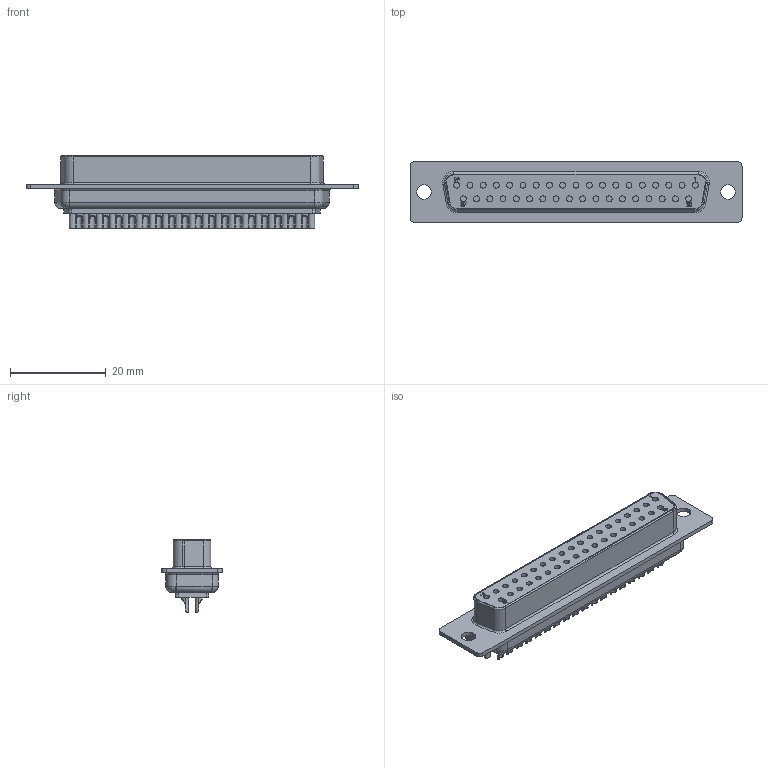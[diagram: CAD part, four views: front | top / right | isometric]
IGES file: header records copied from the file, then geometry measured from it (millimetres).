
Global section: file name: Filename.iges; native system: Open CASCADE 7.3; preprocessor: Open CASCADE IGES processor 7.3; date: 20201223.080450; units: millimetre
Bounding box: 69.3 x 12.6 x 15.27 mm (x, y, z)
Surface area: 6332 mm2 (no closed solid volume)
Topology: 0 solids, 0 shells, 900 faces, 4328 edges, 4328 vertices
Faces by surface type: revolution 472, plane 354, bspline 74
